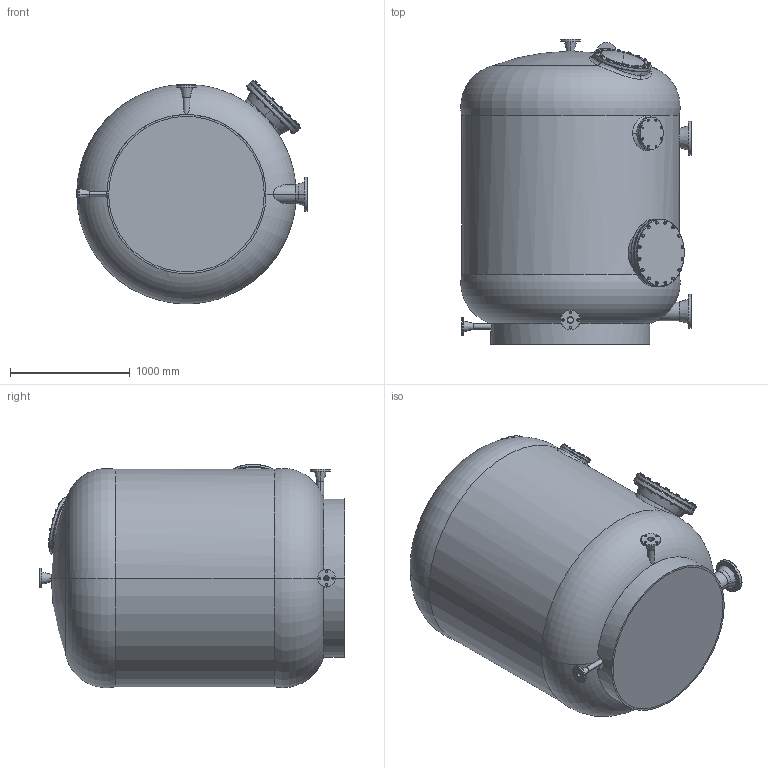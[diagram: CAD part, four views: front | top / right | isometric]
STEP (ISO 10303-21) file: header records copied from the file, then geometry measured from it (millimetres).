
FILE_DESCRIPTION (( 'STEP AP214' ), '1' );
FILE_NAME ('mediterran180c_.STEP', '2020-11-03T12:06:46', ( '' ), ( '' ), 'SwSTEP 2.0', 'SolidWorks 2019', '' );
FILE_SCHEMA (( 'AUTOMOTIVE_DESIGN' ));
Length unit declared in the file: millimetre
Products named in the file (1): mediterran180c_
Bounding box: 1927.35 x 2550.85 x 1869.66 mm (x, y, z)
Surface area: 21486921 mm2 (no closed solid volume)
Topology: 0 solids, 139 shells, 1161 faces, 2875 edges, 1791 vertices
Faces by surface type: plane 492, cone 330, cylinder 243, torus 87, sphere 5, bspline 4
Entity records: 74946 total; most frequent: CARTESIAN_POINT 40346, ORIENTED_EDGE 4936, EDGE_CURVE 2873, DIRECTION 2871, B_SPLINE_CURVE_WITH_KNOTS 2552, VERTEX_POINT 1791, AXIS2_PLACEMENT_3D 1392, EDGE_LOOP 1232
